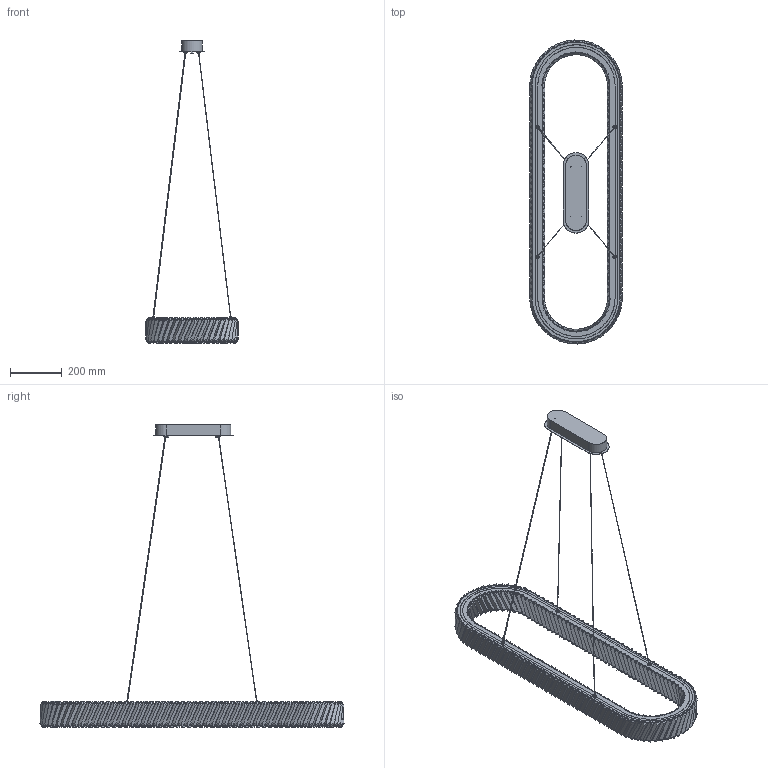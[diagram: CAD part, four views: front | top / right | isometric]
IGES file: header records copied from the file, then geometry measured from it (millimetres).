
Start section: SolidWorks IGES file using analytic representation for surfaces
Global section: file name: Y:\PRODUKT\Modele_3D_WWW\LUXORA\LUXORA OVAL LED 37W\LUXORA OVAL LED 37W.IGS; native system: SolidWorks 2024; preprocessor: SolidWorks 2024; author: anna.bielnik; date: 250227.103339; units: millimetre
Bounding box: 355.56 x 1170.66 x 1167.21 mm (x, y, z)
Surface area: 1658303.1 mm2 (no closed solid volume)
Topology: 0 solids, 0 shells, 2174 faces, 34916 edges, 34916 vertices
Faces by surface type: bspline 1202, revolution 972
